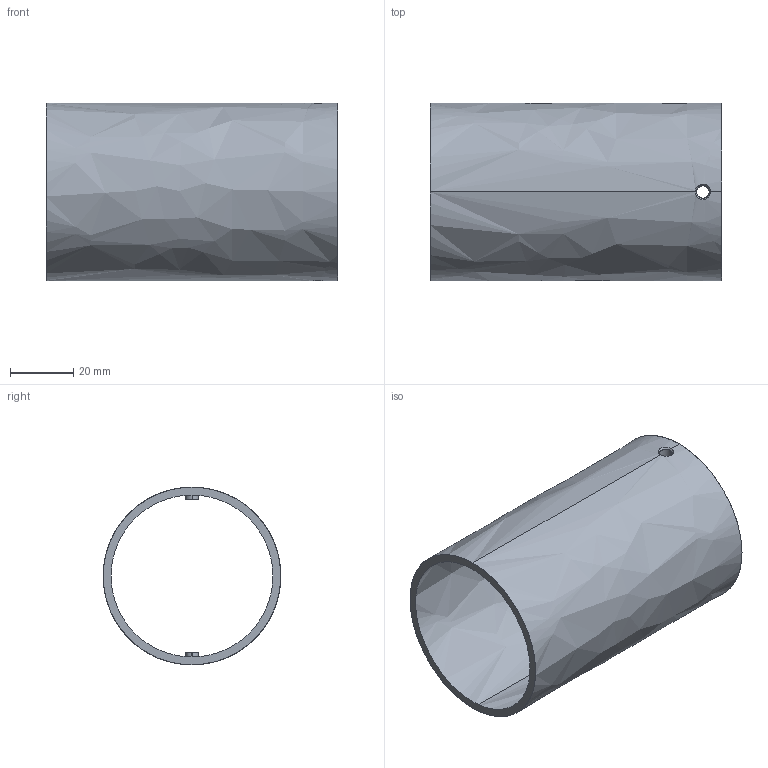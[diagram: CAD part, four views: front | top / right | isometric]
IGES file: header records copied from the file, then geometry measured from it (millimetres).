
Start section: SolidWorks IGES file using analytic representation for surfaces
Global section: file name: \\Kikaku_server01\kikaku\; native system: Rhinoceros ( Feb 22 2008 ); preprocessor: Trout Lake IGES 012 Feb 22 2008; date: 080924.001604; units: millimetre
Bounding box: 92 x 56 x 56 mm (x, y, z)
Surface area: 17090.2 mm2 (no closed solid volume)
Topology: 0 solids, 0 shells, 12 faces, 309 edges, 309 vertices
Faces by surface type: bspline 12
